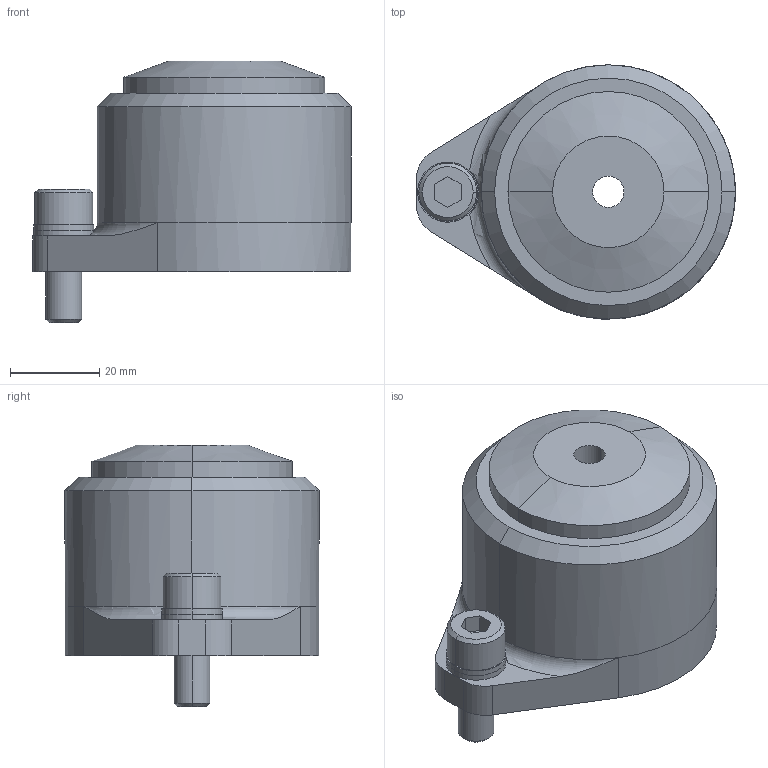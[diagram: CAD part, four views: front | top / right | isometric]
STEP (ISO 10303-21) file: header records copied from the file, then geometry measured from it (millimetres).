
FILE_DESCRIPTION(/* description */ (''),/* implementation_level */ '2;1');
FILE_NAME(/* name */ '3d_spra20-g-p7.00_05385_r00.stp',/* time_stamp */ '2011-01-10T14:10:08+09:00',/* author */ ('MISUMI'),/* organization */ (''),/* preprocessor_version */ 'ST-DEVELOPER v11',/* originating_system */ 'UGS - NX 5.0',/* authorisation */ '');
FILE_SCHEMA (('CONFIG_CONTROL_DESIGN'));
Length unit declared in the file: millimetre
Products named in the file (1): 3d_spra20-g-p7.00_05385_r00
Bounding box: 71.5 x 57 x 58.7 mm (x, y, z)
Volume: 98323.6 mm3; surface area: 38772.6 mm2
Topology: 6 solids, 6 shells, 74 faces, 164 edges, 106 vertices
Faces by surface type: cylinder 38, plane 26, cone 8, torus 2
Entity records: 2188 total; most frequent: DIRECTION 398, CARTESIAN_POINT 365, ORIENTED_EDGE 328, EDGE_CURVE 164, AXIS2_PLACEMENT_3D 163, VERTEX_POINT 106, EDGE_LOOP 90, CIRCLE 88
